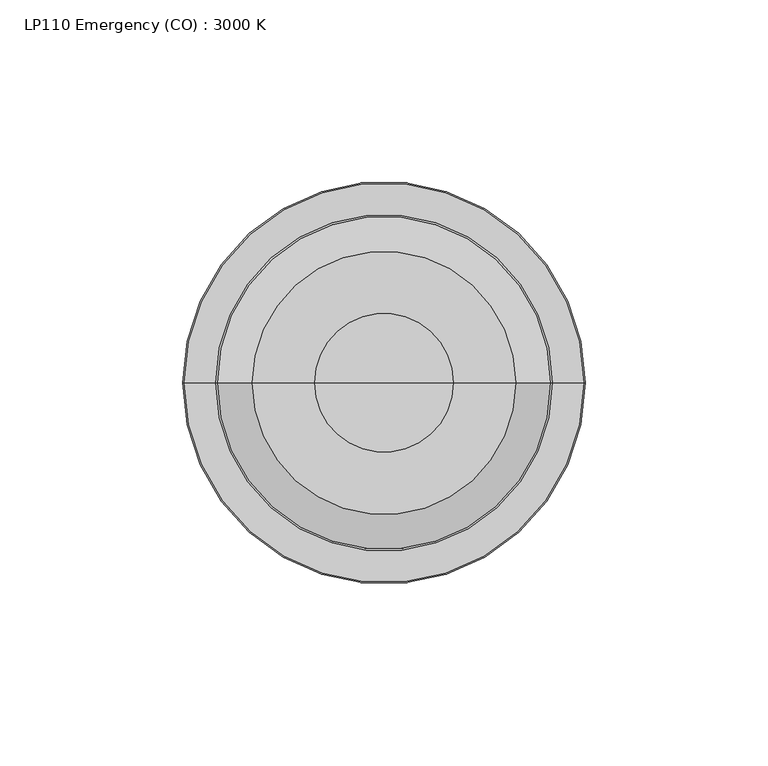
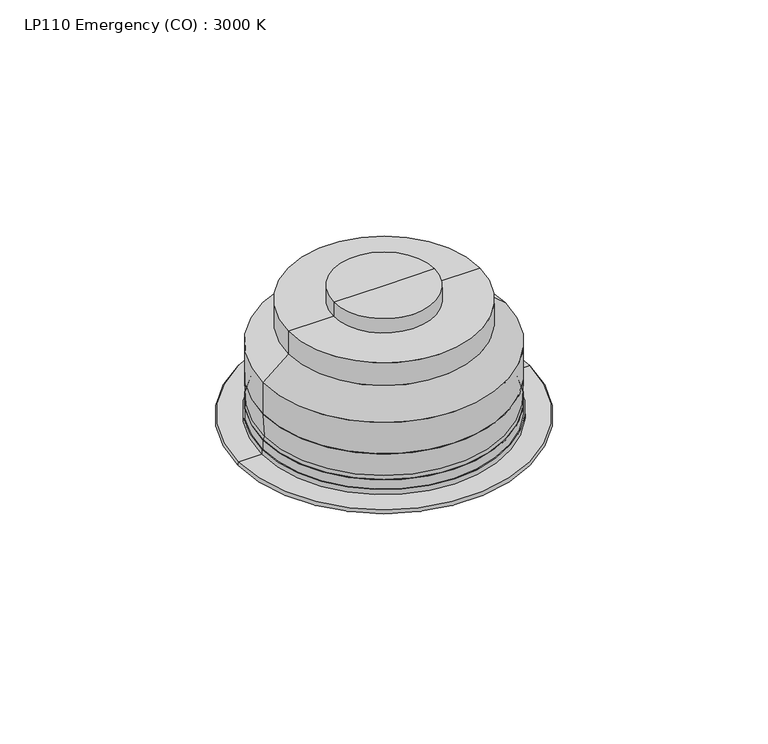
"""IFC4 building model written with IfcOpenShell, lengths in millimetres: light fixture geometry, LP110 Emergency (CO) : 3000 K."""

from ifc_helpers import new_model, si_unit, point, frame, frame_2d, origin, place, context, project, spatial, polyline, circle_curve, ellipse_curve, trimmed, segment, composite_curve, outline, extrude, source, transform, mapped, element, save
from ifc_brep_helpers import plane_surface, cylinder_surface, revolved_surface, advanced_brep


def lp110_emergency_co_3000_k_3e72ed9b(model_context):
    return source(origin(), model_context, "Body", "SolidModel", [
        advanced_brep(
        [(5.817888, 0.0, 3987.9458918), (-5.817888, 0.0, 3987.9458918), (0.0, 0.0, 3987.9458918), (0.0, 0.0, 3982.1280038)],
        [
            (0, 1, circle_curve(frame((0.0, 0.0, 3987.9458918), z_axis=(0.0, 0.0, 1.0), x_axis=(-1.0, 0.0, 0.0)), 5.817888)),
            (1, 2),
            (2, 0),
            (1, 0, circle_curve(frame((0.0, 0.0, 3987.9458918), z_axis=(0.0, 0.0, 1.0), x_axis=(-1.0, 0.0, 0.0)), 5.817888)),
            (3, 1, circle_curve(frame((0.0, 0.0, 3987.9458918), z_axis=(0.0, 1.0, 0.0), x_axis=(-1.0, 0.0, 0.0)), 5.817888)),
            (0, 3, circle_curve(frame((0.0, 0.0, 3987.9458918), z_axis=(0.0, 1.0, 0.0), x_axis=(1.0, 0.0, 0.0)), 5.817888)),
        ],
        [
            plane_surface(frame((0.0, 0.0, 3987.9458918), z_axis=(0.0, 0.0, 1.0), x_axis=(-1.0, 0.0, 0.0))),
            revolved_surface(trimmed(ellipse_curve(frame((0.0, 0.0, 3987.9458918), z_axis=(0.0, -1.0, 0.0), x_axis=(-1.0, 0.0, 0.0)), 5.817888, 5.817888), [point((-5.817888, 0.0, 3987.9458918))], [point((0.0, 0.0, 3982.1280038))], True, "CARTESIAN"), (0.0, 0.0, 4324.4347907), (0.0, 0.0, -1.0)),
        ],
        [
            (0, [[1, 2, 3]]),
            (0, [[4, -3, -2]]),
            (1, [[5, -1, 6]]),
            (1, [[-6, -4, -5]]),
        ],
    ),
        advanced_brep(
        [(25.068584, 0.0, 3992.3208918), (-25.068584, 0.0, 3992.3208918), (0.0, 0.0, 3992.3208918), (7.6754804, 0.0, 3987.9458918), (-7.6754804, 0.0, 3987.9458918), (0.0, 0.0, 3987.9458918)],
        [
            (0, 1, circle_curve(frame((0.0, 0.0, 3992.3208918), z_axis=(0.0, 0.0, 1.0), x_axis=(-1.0, 0.0, 0.0)), 25.068584)),
            (1, 2),
            (2, 0),
            (1, 0, circle_curve(frame((0.0, 0.0, 3992.3208918), z_axis=(0.0, 0.0, 1.0), x_axis=(-1.0, 0.0, 0.0)), 25.068584)),
            (3, 4, circle_curve(frame((0.0, 0.0, 3987.9458918), z_axis=(0.0, 0.0, 1.0), x_axis=(-1.0, 0.0, 0.0)), 7.6754804)),
            (4, 1),
            (0, 3),
            (4, 3, circle_curve(frame((0.0, 0.0, 3987.9458918), z_axis=(0.0, 0.0, 1.0), x_axis=(-1.0, 0.0, 0.0)), 7.6754804)),
            (5, 4),
            (3, 5),
        ],
        [
            plane_surface(frame((0.0, 0.0, 3992.3208918), z_axis=(0.0, 0.0, 1.0), x_axis=(-1.0, 0.0, 0.0))),
            revolved_surface(polyline([(-25.068584, 0.0, 3992.3208918), (-7.6754804, 0.0, 3987.9458918)]), (0.0, 0.0, 4324.4347907), (0.0, 0.0, -1.0)),
            plane_surface(frame((0.0, 0.0, 3987.9458918), z_axis=(0.0, 0.0, -1.0), x_axis=(-1.0, 0.0, 0.0))),
        ],
        [
            (0, [[1, 2, 3]]),
            (0, [[4, -3, -2]]),
            (1, [[5, 6, -1, 7]]),
            (1, [[8, -7, -4, -6]]),
            (2, [[9, -5, 10]]),
            (2, [[-10, -8, -9]]),
        ],
    ),
        advanced_brep(
        [(25.068584, 0.0, 3992.3208918), (-25.068584, 0.0, 3992.3208918), (-30.7872894, 0.0, 3994.29), (30.7872894, 0.0, 3994.29), (0.0, 0.0, 3992.3208918), (0.0, 0.0, 3994.29)],
        [
            (0, 1, circle_curve(frame((0.0, 0.0, 3992.3208918), z_axis=(0.0, 0.0, 1.0), x_axis=(-1.0, 0.0, 0.0)), 25.068584)),
            (1, 2),
            (2, 3, circle_curve(frame((0.0, 0.0, 3994.29), z_axis=(0.0, 0.0, -1.0), x_axis=(-1.0, 0.0, 0.0)), 30.7872894)),
            (3, 0),
            (1, 0, circle_curve(frame((0.0, 0.0, 3992.3208918), z_axis=(0.0, 0.0, 1.0), x_axis=(-1.0, 0.0, 0.0)), 25.068584)),
            (3, 2, circle_curve(frame((0.0, 0.0, 3994.29), z_axis=(0.0, 0.0, -1.0), x_axis=(-1.0, 0.0, 0.0)), 30.7872894)),
            (4, 1),
            (0, 4),
            (2, 5),
            (5, 3),
        ],
        [
            revolved_surface(polyline([(-30.7872894, 0.0, 3994.29), (-25.068584, 0.0, 3992.3208918)]), (0.0, 0.0, 4324.4347907), (0.0, 0.0, -1.0)),
            plane_surface(frame((0.0, 0.0, 3992.3208918), z_axis=(0.0, 0.0, -1.0), x_axis=(-1.0, 0.0, 0.0))),
            plane_surface(frame((0.0, 0.0, 3994.29), z_axis=(0.0, 0.0, 1.0), x_axis=(-1.0, 0.0, 0.0))),
        ],
        [
            (0, [[1, 2, 3, 4]]),
            (0, [[5, -4, 6, -2]]),
            (1, [[7, -1, 8]]),
            (1, [[-8, -5, -7]]),
            (2, [[-3, 9, 10]]),
            (2, [[-6, -10, -9]]),
        ],
    ),
        advanced_brep(
        [(-18.9752528, 0.0, 4045.33), (18.9752528, 0.0, 4045.33), (0.0, 0.0, 4045.33), (-18.9752528, 0.0, 4050.97), (18.9752528, 0.0, 4050.97), (0.0, 0.0, 4050.97)],
        [
            (0, 1, circle_curve(frame((0.0, 0.0, 4045.33), z_axis=(0.0, 0.0, -1.0), x_axis=(1.0, 0.0, 0.0)), 18.9752528)),
            (1, 2),
            (2, 0),
            (1, 0, circle_curve(frame((0.0, 0.0, 4045.33), z_axis=(0.0, 0.0, -1.0), x_axis=(1.0, 0.0, 0.0)), 18.9752528)),
            (3, 4, circle_curve(frame((0.0, 0.0, 4050.97), z_axis=(0.0, 0.0, -1.0), x_axis=(1.0, 0.0, 0.0)), 18.9752528)),
            (4, 1),
            (0, 3),
            (4, 3, circle_curve(frame((0.0, 0.0, 4050.97), z_axis=(0.0, 0.0, -1.0), x_axis=(1.0, 0.0, 0.0)), 18.9752528)),
            (5, 4),
            (3, 5),
        ],
        [
            plane_surface(frame((0.0, 0.0, 4045.33), z_axis=(0.0, 0.0, -1.0), x_axis=(1.0, 0.0, 0.0))),
            cylinder_surface(frame((0.0, 0.0, 4324.4347907), z_axis=(0.0, 0.0, 1.0), x_axis=(1.0, 0.0, 0.0)), 18.9752528),
            plane_surface(frame((0.0, 0.0, 4050.97), z_axis=(0.0, 0.0, 1.0), x_axis=(1.0, 0.0, 0.0))),
        ],
        [
            (0, [[1, 2, 3]]),
            (0, [[4, -3, -2]]),
            (1, [[5, 6, -1, 7]]),
            (1, [[8, -7, -4, -6]]),
            (2, [[9, -5, 10]]),
            (2, [[-10, -8, -9]]),
        ],
    ),
        advanced_brep(
        [(-45.5028187, 0.0, 4001.88), (45.5028187, 0.0, 4001.88), (0.0, 0.0, 4001.88), (-45.5028187, 0.0, 4005.3318994), (45.5028187, 0.0, 4005.3318994), (0.0, 0.0, 4005.3318994)],
        [
            (0, 1, circle_curve(frame((0.0, 0.0, 4001.88), z_axis=(0.0, 0.0, -1.0), x_axis=(1.0, 0.0, 0.0)), 45.5028187)),
            (1, 2),
            (2, 0),
            (1, 0, circle_curve(frame((0.0, 0.0, 4001.88), z_axis=(0.0, 0.0, -1.0), x_axis=(1.0, 0.0, 0.0)), 45.5028187)),
            (3, 4, circle_curve(frame((0.0, 0.0, 4005.3318994), z_axis=(0.0, 0.0, -1.0), x_axis=(1.0, 0.0, 0.0)), 45.5028187)),
            (4, 1),
            (0, 3),
            (4, 3, circle_curve(frame((0.0, 0.0, 4005.3318994), z_axis=(0.0, 0.0, -1.0), x_axis=(1.0, 0.0, 0.0)), 45.5028187)),
            (5, 4),
            (3, 5),
        ],
        [
            plane_surface(frame((0.0, 0.0, 4001.88), z_axis=(0.0, 0.0, -1.0), x_axis=(1.0, 0.0, 0.0))),
            cylinder_surface(frame((0.0, 0.0, 4324.4347907), z_axis=(0.0, 0.0, 1.0), x_axis=(1.0, 0.0, 0.0)), 45.5028187),
            plane_surface(frame((0.0, 0.0, 4005.3318994), z_axis=(0.0, 0.0, 1.0), x_axis=(1.0, 0.0, 0.0))),
        ],
        [
            (0, [[1, 2, 3]]),
            (0, [[4, -3, -2]]),
            (1, [[5, 6, -1, 7]]),
            (1, [[8, -7, -4, -6]]),
            (2, [[9, -5, 10]]),
            (2, [[-10, -8, -9]]),
        ],
    ),
        advanced_brep(
        [(-45.0440523, 0.0, 4006.93), (45.0440523, 0.0, 4006.93), (0.0, 0.0, 4006.93), (-45.5, 0.0, 4015.63), (45.5, 0.0, 4015.63), (0.0, 0.0, 4015.63)],
        [
            (0, 1, circle_curve(frame((0.0, 0.0, 4006.93), z_axis=(0.0, 0.0, -1.0), x_axis=(1.0, 0.0, 0.0)), 45.0440523)),
            (1, 2),
            (2, 0),
            (1, 0, circle_curve(frame((0.0, 0.0, 4006.93), z_axis=(0.0, 0.0, -1.0), x_axis=(1.0, 0.0, 0.0)), 45.0440523)),
            (3, 4, circle_curve(frame((0.0, 0.0, 4015.63), z_axis=(0.0, 0.0, -1.0), x_axis=(1.0, 0.0, 0.0)), 45.5)),
            (4, 1),
            (0, 3),
            (4, 3, circle_curve(frame((0.0, 0.0, 4015.63), z_axis=(0.0, 0.0, -1.0), x_axis=(1.0, 0.0, 0.0)), 45.5)),
            (5, 4),
            (3, 5),
        ],
        [
            plane_surface(frame((0.0, 0.0, 4006.93), z_axis=(0.0, 0.0, -1.0), x_axis=(1.0, 0.0, 0.0))),
            revolved_surface(polyline([(45.0440523, 0.0, 4006.93), (45.5, 0.0, 4015.63)]), (0.0, 0.0, 4324.4347907), (0.0, 0.0, 1.0)),
            plane_surface(frame((0.0, 0.0, 4015.63), z_axis=(0.0, 0.0, 1.0), x_axis=(1.0, 0.0, 0.0))),
        ],
        [
            (0, [[1, 2, 3]]),
            (0, [[4, -3, -2]]),
            (1, [[5, 6, -1, 7]]),
            (1, [[8, -7, -4, -6]]),
            (2, [[9, -5, 10]]),
            (2, [[-10, -8, -9]]),
        ],
    ),
        advanced_brep(
        [(-45.5028187, 0.0, 4005.3318994), (45.5028187, 0.0, 4005.3318994), (0.0, 0.0, 4005.3318994), (-43.9047181, 0.0, 4006.93), (43.9047181, 0.0, 4006.93), (0.0, 0.0, 4006.93)],
        [
            (0, 1, circle_curve(frame((0.0, 0.0, 4005.3318994), z_axis=(0.0, 0.0, -1.0), x_axis=(1.0, 0.0, 0.0)), 45.5028187)),
            (1, 2),
            (2, 0),
            (1, 0, circle_curve(frame((0.0, 0.0, 4005.3318994), z_axis=(0.0, 0.0, -1.0), x_axis=(1.0, 0.0, 0.0)), 45.5028187)),
            (3, 4, circle_curve(frame((0.0, 0.0, 4006.93), z_axis=(0.0, 0.0, -1.0), x_axis=(1.0, 0.0, 0.0)), 43.9047181)),
            (4, 1, circle_curve(frame((43.9047181, 0.0, 4005.3318994), z_axis=(0.0, 1.0, 0.0), x_axis=(1.0, 0.0, 0.0)), 1.5981006)),
            (0, 3, circle_curve(frame((-43.9047181, 0.0, 4005.3318994), z_axis=(0.0, 1.0, 0.0), x_axis=(-1.0, 0.0, 0.0)), 1.5981006)),
            (4, 3, circle_curve(frame((0.0, 0.0, 4006.93), z_axis=(0.0, 0.0, -1.0), x_axis=(1.0, 0.0, 0.0)), 43.9047181)),
            (5, 4),
            (3, 5),
        ],
        [
            plane_surface(frame((0.0, 0.0, 4005.3318994), z_axis=(0.0, 0.0, -1.0), x_axis=(1.0, 0.0, 0.0))),
            revolved_surface(trimmed(ellipse_curve(frame((43.9047181, 0.0, 4005.3318994), z_axis=(0.0, -1.0, 0.0), x_axis=(1.0, 0.0, 0.0)), 1.5981006, 1.5981006), [point((45.5028187, 0.0, 4005.3318994))], [point((43.9047181, 0.0, 4006.93))], True, "CARTESIAN"), (0.0, 0.0, 3993.7591953), (0.0, 0.0, 1.0)),
            plane_surface(frame((0.0, 0.0, 4006.93), z_axis=(0.0, 0.0, 1.0), x_axis=(1.0, 0.0, 0.0))),
        ],
        [
            (0, [[1, 2, 3]]),
            (0, [[4, -3, -2]]),
            (1, [[5, 6, -1, 7]]),
            (1, [[8, -7, -4, -6]]),
            (2, [[9, -5, 10]]),
            (2, [[-10, -8, -9]]),
        ],
    ),
        advanced_brep(
        [(-46.0, 0.0, 4000.0), (46.0, 0.0, 4000.0), (0.0, 0.0, 4000.0), (-46.0, 0.0, 4001.88), (46.0, 0.0, 4001.88), (0.0, 0.0, 4001.88)],
        [
            (0, 1, circle_curve(frame((0.0, 0.0, 4000.0), z_axis=(0.0, 0.0, -1.0), x_axis=(1.0, 0.0, 0.0)), 46.0)),
            (1, 2),
            (2, 0),
            (1, 0, circle_curve(frame((0.0, 0.0, 4000.0), z_axis=(0.0, 0.0, -1.0), x_axis=(1.0, 0.0, 0.0)), 46.0)),
            (3, 4, circle_curve(frame((0.0, 0.0, 4001.88), z_axis=(0.0, 0.0, -1.0), x_axis=(1.0, 0.0, 0.0)), 46.0)),
            (4, 1),
            (0, 3),
            (4, 3, circle_curve(frame((0.0, 0.0, 4001.88), z_axis=(0.0, 0.0, -1.0), x_axis=(1.0, 0.0, 0.0)), 46.0)),
            (5, 4),
            (3, 5),
        ],
        [
            plane_surface(frame((0.0, 0.0, 4000.0), z_axis=(0.0, 0.0, -1.0), x_axis=(1.0, 0.0, 0.0))),
            cylinder_surface(frame((0.0, 0.0, 3993.7591953), z_axis=(0.0, 0.0, 1.0), x_axis=(1.0, 0.0, 0.0)), 46.0),
            plane_surface(frame((0.0, 0.0, 4001.88), z_axis=(0.0, 0.0, 1.0), x_axis=(1.0, 0.0, 0.0))),
        ],
        [
            (0, [[1, 2, 3]]),
            (0, [[4, -3, -2]]),
            (1, [[5, 6, -1, 7]]),
            (1, [[8, -7, -4, -6]]),
            (2, [[9, -5, 10]]),
            (2, [[-10, -8, -9]]),
        ],
    ),
        advanced_brep(
        [(-18.9752528, 0.0, 4045.33), (18.9752528, 0.0, 4045.33), (0.0, 0.0, 4045.33), (-18.9752528, 0.0, 4050.97), (18.9752528, 0.0, 4050.97), (0.0, 0.0, 4050.97)],
        [
            (0, 1, circle_curve(frame((0.0, 0.0, 4045.33), z_axis=(0.0, 0.0, -1.0), x_axis=(1.0, 0.0, 0.0)), 18.9752528)),
            (1, 2),
            (2, 0),
            (1, 0, circle_curve(frame((0.0, 0.0, 4045.33), z_axis=(0.0, 0.0, -1.0), x_axis=(1.0, 0.0, 0.0)), 18.9752528)),
            (3, 4, circle_curve(frame((0.0, 0.0, 4050.97), z_axis=(0.0, 0.0, -1.0), x_axis=(1.0, 0.0, 0.0)), 18.9752528)),
            (4, 1),
            (0, 3),
            (4, 3, circle_curve(frame((0.0, 0.0, 4050.97), z_axis=(0.0, 0.0, -1.0), x_axis=(1.0, 0.0, 0.0)), 18.9752528)),
            (5, 4),
            (3, 5),
        ],
        [
            plane_surface(frame((0.0, 0.0, 4045.33), z_axis=(0.0, 0.0, -1.0), x_axis=(1.0, 0.0, 0.0))),
            cylinder_surface(frame((0.0, 0.0, 4324.4347907), z_axis=(0.0, 0.0, 1.0), x_axis=(1.0, 0.0, 0.0)), 18.9752528),
            plane_surface(frame((0.0, 0.0, 4050.97), z_axis=(0.0, 0.0, 1.0), x_axis=(1.0, 0.0, 0.0))),
        ],
        [
            (0, [[1, 2, 3]]),
            (0, [[4, -3, -2]]),
            (1, [[5, 6, -1, 7]]),
            (1, [[8, -7, -4, -6]]),
            (2, [[9, -5, 10]]),
            (2, [[-10, -8, -9]]),
        ],
    ),
        advanced_brep(
        [(-45.5, 0.0, 4015.63), (45.5, 0.0, 4015.63), (0.0, 0.0, 4015.63), (-45.5, 0.0, 4028.2753696), (45.5, 0.0, 4028.2753696), (-35.9723705, 0.0, 4036.27), (35.9723705, 0.0, 4036.27), (-35.9723705, 0.0, 4045.33), (35.9723705, 0.0, 4045.33), (0.0, 0.0, 4045.33)],
        [
            (0, 1, circle_curve(frame((0.0, 0.0, 4015.63), z_axis=(0.0, 0.0, -1.0), x_axis=(1.0, 0.0, 0.0)), 45.5)),
            (1, 2),
            (2, 0),
            (1, 0, circle_curve(frame((0.0, 0.0, 4015.63), z_axis=(0.0, 0.0, -1.0), x_axis=(1.0, 0.0, 0.0)), 45.5)),
            (3, 4, circle_curve(frame((0.0, 0.0, 4028.2753696), z_axis=(0.0, 0.0, -1.0), x_axis=(1.0, 0.0, 0.0)), 45.5)),
            (4, 1),
            (0, 3),
            (4, 3, circle_curve(frame((0.0, 0.0, 4028.2753696), z_axis=(0.0, 0.0, -1.0), x_axis=(1.0, 0.0, 0.0)), 45.5)),
            (5, 6, circle_curve(frame((0.0, 0.0, 4036.27), z_axis=(0.0, 0.0, -1.0), x_axis=(1.0, 0.0, 0.0)), 35.9723705)),
            (6, 4),
            (3, 5),
            (6, 5, circle_curve(frame((0.0, 0.0, 4036.27), z_axis=(0.0, 0.0, -1.0), x_axis=(1.0, 0.0, 0.0)), 35.9723705)),
            (7, 8, circle_curve(frame((0.0, 0.0, 4045.33), z_axis=(0.0, 0.0, -1.0), x_axis=(1.0, 0.0, 0.0)), 35.9723705)),
            (8, 6),
            (5, 7),
            (8, 7, circle_curve(frame((0.0, 0.0, 4045.33), z_axis=(0.0, 0.0, -1.0), x_axis=(1.0, 0.0, 0.0)), 35.9723705)),
            (9, 8),
            (7, 9),
        ],
        [
            plane_surface(frame((0.0, 0.0, 4015.63), z_axis=(0.0, 0.0, -1.0), x_axis=(1.0, 0.0, 0.0))),
            cylinder_surface(frame((0.0, 0.0, 4324.4347907), z_axis=(0.0, 0.0, 1.0), x_axis=(1.0, 0.0, 0.0)), 45.5),
            revolved_surface(polyline([(45.5, 0.0, 4028.2753696), (35.9723705, 0.0, 4036.27)]), (0.0, 0.0, 4324.4347907), (0.0, 0.0, 1.0)),
            cylinder_surface(frame((0.0, 0.0, 4324.4347907), z_axis=(0.0, 0.0, 1.0), x_axis=(1.0, 0.0, 0.0)), 35.9723705),
            plane_surface(frame((0.0, 0.0, 4045.33), z_axis=(0.0, 0.0, 1.0), x_axis=(1.0, 0.0, 0.0))),
        ],
        [
            (0, [[1, 2, 3]]),
            (0, [[4, -3, -2]]),
            (1, [[5, 6, -1, 7]]),
            (1, [[8, -7, -4, -6]]),
            (2, [[9, 10, -5, 11]]),
            (2, [[12, -11, -8, -10]]),
            (3, [[13, 14, -9, 15]]),
            (3, [[16, -15, -12, -14]]),
            (4, [[17, -13, 18]]),
            (4, [[-18, -16, -17]]),
        ],
    ),
        extrude(outline(composite_curve([segment(trimmed(circle_curve(frame_2d((0.153956, -0.1564231)), 40.0), [point((-39.846044, -0.1564231))], [point((40.153956, -0.1564231))], False, "CARTESIAN"), True, "CONTINUOUS"), segment(trimmed(circle_curve(frame_2d((0.153956, -0.1564231)), 40.0), [point((40.153956, -0.1564231))], [point((-39.846044, -0.1564231))], False, "CARTESIAN"), True, "CONTINUOUS")], self_intersect=False), holes=[composite_curve([segment(trimmed(circle_curve(frame_2d((0.153956, -0.1564231)), 29.1123547), [point((-28.9583987, -0.1564231))], [point((29.2663107, -0.1564231))], True, "CARTESIAN"), True, "CONTINUOUS"), segment(trimmed(circle_curve(frame_2d((0.153956, -0.1564231)), 29.1123547), [point((29.2663107, -0.1564231))], [point((-28.9583987, -0.1564231))], True, "CARTESIAN"), True, "CONTINUOUS")], self_intersect=False)]), frame((0.0, 0.0, 3994.29), z_axis=(0.0, 0.0, 1.0), x_axis=(1.0, 0.0, 0.0)), (0.0, 0.0, 1.0), 0.5),
        advanced_brep(
        [(-45.5028187, 0.0, 4001.88), (45.5028187, 0.0, 4001.88), (0.0, 0.0, 4001.88), (-45.5028187, 0.0, 4005.3318994), (45.5028187, 0.0, 4005.3318994), (0.0, 0.0, 4005.3318994)],
        [
            (0, 1, circle_curve(frame((0.0, 0.0, 4001.88), z_axis=(0.0, 0.0, -1.0), x_axis=(1.0, 0.0, 0.0)), 45.5028187)),
            (1, 2),
            (2, 0),
            (1, 0, circle_curve(frame((0.0, 0.0, 4001.88), z_axis=(0.0, 0.0, -1.0), x_axis=(1.0, 0.0, 0.0)), 45.5028187)),
            (3, 4, circle_curve(frame((0.0, 0.0, 4005.3318994), z_axis=(0.0, 0.0, -1.0), x_axis=(1.0, 0.0, 0.0)), 45.5028187)),
            (4, 1),
            (0, 3),
            (4, 3, circle_curve(frame((0.0, 0.0, 4005.3318994), z_axis=(0.0, 0.0, -1.0), x_axis=(1.0, 0.0, 0.0)), 45.5028187)),
            (5, 4),
            (3, 5),
        ],
        [
            plane_surface(frame((0.0, 0.0, 4001.88), z_axis=(0.0, 0.0, -1.0), x_axis=(1.0, 0.0, 0.0))),
            cylinder_surface(frame((0.0, 0.0, 4324.4347907), z_axis=(0.0, 0.0, 1.0), x_axis=(1.0, 0.0, 0.0)), 45.5028187),
            plane_surface(frame((0.0, 0.0, 4005.3318994), z_axis=(0.0, 0.0, 1.0), x_axis=(1.0, 0.0, 0.0))),
        ],
        [
            (0, [[1, 2, 3]]),
            (0, [[4, -3, -2]]),
            (1, [[5, 6, -1, 7]]),
            (1, [[8, -7, -4, -6]]),
            (2, [[9, -5, 10]]),
            (2, [[-10, -8, -9]]),
        ],
    ),
        advanced_brep(
        [(-45.0440523, 0.0, 4006.93), (45.0440523, 0.0, 4006.93), (0.0, 0.0, 4006.93), (-45.5, 0.0, 4015.63), (45.5, 0.0, 4015.63), (0.0, 0.0, 4015.63)],
        [
            (0, 1, circle_curve(frame((0.0, 0.0, 4006.93), z_axis=(0.0, 0.0, -1.0), x_axis=(1.0, 0.0, 0.0)), 45.0440523)),
            (1, 2),
            (2, 0),
            (1, 0, circle_curve(frame((0.0, 0.0, 4006.93), z_axis=(0.0, 0.0, -1.0), x_axis=(1.0, 0.0, 0.0)), 45.0440523)),
            (3, 4, circle_curve(frame((0.0, 0.0, 4015.63), z_axis=(0.0, 0.0, -1.0), x_axis=(1.0, 0.0, 0.0)), 45.5)),
            (4, 1),
            (0, 3),
            (4, 3, circle_curve(frame((0.0, 0.0, 4015.63), z_axis=(0.0, 0.0, -1.0), x_axis=(1.0, 0.0, 0.0)), 45.5)),
            (5, 4),
            (3, 5),
        ],
        [
            plane_surface(frame((0.0, 0.0, 4006.93), z_axis=(0.0, 0.0, -1.0), x_axis=(1.0, 0.0, 0.0))),
            revolved_surface(polyline([(45.0440523, 0.0, 4006.93), (45.5, 0.0, 4015.63)]), (0.0, 0.0, 4324.4347907), (0.0, 0.0, 1.0)),
            plane_surface(frame((0.0, 0.0, 4015.63), z_axis=(0.0, 0.0, 1.0), x_axis=(1.0, 0.0, 0.0))),
        ],
        [
            (0, [[1, 2, 3]]),
            (0, [[4, -3, -2]]),
            (1, [[5, 6, -1, 7]]),
            (1, [[8, -7, -4, -6]]),
            (2, [[9, -5, 10]]),
            (2, [[-10, -8, -9]]),
        ],
    ),
        advanced_brep(
        [(-45.5028187, 0.0, 4005.3318994), (45.5028187, 0.0, 4005.3318994), (0.0, 0.0, 4005.3318994), (-43.9047181, 0.0, 4006.93), (43.9047181, 0.0, 4006.93), (0.0, 0.0, 4006.93)],
        [
            (0, 1, circle_curve(frame((0.0, 0.0, 4005.3318994), z_axis=(0.0, 0.0, -1.0), x_axis=(1.0, 0.0, 0.0)), 45.5028187)),
            (1, 2),
            (2, 0),
            (1, 0, circle_curve(frame((0.0, 0.0, 4005.3318994), z_axis=(0.0, 0.0, -1.0), x_axis=(1.0, 0.0, 0.0)), 45.5028187)),
            (3, 4, circle_curve(frame((0.0, 0.0, 4006.93), z_axis=(0.0, 0.0, -1.0), x_axis=(1.0, 0.0, 0.0)), 43.9047181)),
            (4, 1, circle_curve(frame((43.9047181, 0.0, 4005.3318994), z_axis=(0.0, 1.0, 0.0), x_axis=(1.0, 0.0, 0.0)), 1.5981006)),
            (0, 3, circle_curve(frame((-43.9047181, 0.0, 4005.3318994), z_axis=(0.0, 1.0, 0.0), x_axis=(-1.0, 0.0, 0.0)), 1.5981006)),
            (4, 3, circle_curve(frame((0.0, 0.0, 4006.93), z_axis=(0.0, 0.0, -1.0), x_axis=(1.0, 0.0, 0.0)), 43.9047181)),
            (5, 4),
            (3, 5),
        ],
        [
            plane_surface(frame((0.0, 0.0, 4005.3318994), z_axis=(0.0, 0.0, -1.0), x_axis=(1.0, 0.0, 0.0))),
            revolved_surface(trimmed(ellipse_curve(frame((43.9047181, 0.0, 4005.3318994), z_axis=(0.0, -1.0, 0.0), x_axis=(1.0, 0.0, 0.0)), 1.5981006, 1.5981006), [point((45.5028187, 0.0, 4005.3318994))], [point((43.9047181, 0.0, 4006.93))], True, "CARTESIAN"), (0.0, 0.0, 3993.7591953), (0.0, 0.0, 1.0)),
            plane_surface(frame((0.0, 0.0, 4006.93), z_axis=(0.0, 0.0, 1.0), x_axis=(1.0, 0.0, 0.0))),
        ],
        [
            (0, [[1, 2, 3]]),
            (0, [[4, -3, -2]]),
            (1, [[5, 6, -1, 7]]),
            (1, [[8, -7, -4, -6]]),
            (2, [[9, -5, 10]]),
            (2, [[-10, -8, -9]]),
        ],
    ),
        advanced_brep(
        [(-46.0, 0.0, 4000.0), (46.0, 0.0, 4000.0), (0.0, 0.0, 4000.0), (-46.0, 0.0, 4001.88), (46.0, 0.0, 4001.88), (0.0, 0.0, 4001.88)],
        [
            (0, 1, circle_curve(frame((0.0, 0.0, 4000.0), z_axis=(0.0, 0.0, -1.0), x_axis=(1.0, 0.0, 0.0)), 46.0)),
            (1, 2),
            (2, 0),
            (1, 0, circle_curve(frame((0.0, 0.0, 4000.0), z_axis=(0.0, 0.0, -1.0), x_axis=(1.0, 0.0, 0.0)), 46.0)),
            (3, 4, circle_curve(frame((0.0, 0.0, 4001.88), z_axis=(0.0, 0.0, -1.0), x_axis=(1.0, 0.0, 0.0)), 46.0)),
            (4, 1),
            (0, 3),
            (4, 3, circle_curve(frame((0.0, 0.0, 4001.88), z_axis=(0.0, 0.0, -1.0), x_axis=(1.0, 0.0, 0.0)), 46.0)),
            (5, 4),
            (3, 5),
        ],
        [
            plane_surface(frame((0.0, 0.0, 4000.0), z_axis=(0.0, 0.0, -1.0), x_axis=(1.0, 0.0, 0.0))),
            cylinder_surface(frame((0.0, 0.0, 3993.7591953), z_axis=(0.0, 0.0, 1.0), x_axis=(1.0, 0.0, 0.0)), 46.0),
            plane_surface(frame((0.0, 0.0, 4001.88), z_axis=(0.0, 0.0, 1.0), x_axis=(1.0, 0.0, 0.0))),
        ],
        [
            (0, [[1, 2, 3]]),
            (0, [[4, -3, -2]]),
            (1, [[5, 6, -1, 7]]),
            (1, [[8, -7, -4, -6]]),
            (2, [[9, -5, 10]]),
            (2, [[-10, -8, -9]]),
        ],
    ),
        advanced_brep(
        [(-54.4320431, 0.0, 3998.2898924), (54.4320431, 0.0, 3998.2898924), (47.8497028, 0.0, 3994.79), (-47.8497028, 0.0, 3994.79), (-54.7151231, 0.0, 4000.0), (54.7151231, 0.0, 4000.0), (-26.7465724, 0.0, 4000.0), (26.7465724, 0.0, 4000.0), (26.7465724, 0.0, 3994.79), (-26.7465724, 0.0, 3994.79)],
        [
            (0, 1, circle_curve(frame((0.0, 0.0, 3998.2898924), z_axis=(0.0, 0.0, -1.0), x_axis=(1.0, 0.0, 0.0)), 54.4320431)),
            (1, 2),
            (2, 3, circle_curve(frame((0.0, 0.0, 3994.79), z_axis=(0.0, 0.0, 1.0), x_axis=(1.0, 0.0, 0.0)), 47.8497028)),
            (3, 0),
            (1, 0, circle_curve(frame((0.0, 0.0, 3998.2898924), z_axis=(0.0, 0.0, -1.0), x_axis=(1.0, 0.0, 0.0)), 54.4320431)),
            (3, 2, circle_curve(frame((0.0, 0.0, 3994.79), z_axis=(0.0, 0.0, 1.0), x_axis=(1.0, 0.0, 0.0)), 47.8497028)),
            (4, 5, circle_curve(frame((0.0, 0.0, 4000.0), z_axis=(0.0, 0.0, -1.0), x_axis=(1.0, 0.0, 0.0)), 54.7151231)),
            (5, 1, circle_curve(frame((53.9198655, 0.0, 3999.2531583), z_axis=(0.0, 1.0, 0.0), x_axis=(1.0, 0.0, 0.0)), 1.0909661)),
            (0, 4, circle_curve(frame((-53.9198655, 0.0, 3999.2531583), z_axis=(0.0, 1.0, 0.0), x_axis=(-1.0, 0.0, 0.0)), 1.0909661)),
            (5, 4, circle_curve(frame((0.0, 0.0, 4000.0), z_axis=(0.0, 0.0, -1.0), x_axis=(1.0, 0.0, 0.0)), 54.7151231)),
            (6, 7, circle_curve(frame((0.0, 0.0, 4000.0), z_axis=(0.0, 0.0, -1.0), x_axis=(1.0, 0.0, 0.0)), 26.7465724)),
            (7, 5),
            (4, 6),
            (7, 6, circle_curve(frame((0.0, 0.0, 4000.0), z_axis=(0.0, 0.0, -1.0), x_axis=(1.0, 0.0, 0.0)), 26.7465724)),
            (2, 8),
            (8, 9, circle_curve(frame((0.0, 0.0, 3994.79), z_axis=(0.0, 0.0, 1.0), x_axis=(1.0, 0.0, 0.0)), 26.7465724)),
            (9, 3),
            (9, 8, circle_curve(frame((0.0, 0.0, 3994.79), z_axis=(0.0, 0.0, 1.0), x_axis=(1.0, 0.0, 0.0)), 26.7465724)),
            (8, 7),
            (6, 9),
        ],
        [
            revolved_surface(polyline([(47.8497028, 0.0, 3994.79), (54.4320431, 0.0, 3998.2898924)]), (0.0, 0.0, 4324.4347907), (0.0, 0.0, 1.0)),
            revolved_surface(trimmed(ellipse_curve(frame((53.9198655, 0.0, 3999.2531583), z_axis=(0.0, -1.0, 0.0), x_axis=(1.0, 0.0, 0.0)), 1.0909661, 1.0909661), [point((54.4320431, 0.0, 3998.2898924))], [point((54.7151231, 0.0, 4000.0))], True, "CARTESIAN"), (0.0, 0.0, 4324.4347907), (0.0, 0.0, 1.0)),
            plane_surface(frame((0.0, 0.0, 4000.0), z_axis=(0.0, 0.0, 1.0), x_axis=(1.0, 0.0, 0.0))),
            plane_surface(frame((0.0, 0.0, 3994.79), z_axis=(0.0, 0.0, -1.0), x_axis=(1.0, 0.0, 0.0))),
            revolved_surface(polyline([(26.7465724, 0.0, 4000.0), (26.7465724, 0.0, 3994.79)]), (0.0, 0.0, 4324.4347907), (0.0, 0.0, 1.0)),
        ],
        [
            (0, [[1, 2, 3, 4]]),
            (0, [[5, -4, 6, -2]]),
            (1, [[7, 8, -1, 9]]),
            (1, [[10, -9, -5, -8]]),
            (2, [[11, 12, -7, 13]]),
            (2, [[14, -13, -10, -12]]),
            (3, [[-3, 15, 16, 17]]),
            (3, [[-6, -17, 18, -15]]),
            (4, [[-16, 19, -11, 20]]),
            (4, [[-18, -20, -14, -19]]),
        ],
    ),
    ])


if __name__ == "__main__":
    model = new_model("IFC4")
    model_context = context("Model", 3, world=origin())
    ifc_project = project(units=[si_unit("LENGTHUNIT", "METRE", prefix="MILLI")], contexts=[model_context])
    site = spatial("IfcSite", under=ifc_project)
    building = spatial("IfcBuilding", under=site)
    placement = place(None, origin())
    lp110_emergency_co_3000_k_shape = lp110_emergency_co_3000_k_3e72ed9b(model_context)
    element("IfcLightFixture", 1, ObjectType="LP110 Emergency (CO) : 3000 K", at=placement, inside=building, context=model_context, shape_type="MappedRepresentation", body=[
        mapped(lp110_emergency_co_3000_k_shape, transform((0.0, 0.0, 0.0), x_axis=(1.0, 0.0, 0.0), y_axis=(0.0, 1.0, 0.0), z_axis=(0.0, 0.0, 1.0))),
    ])
    save(model, "model.ifc")
